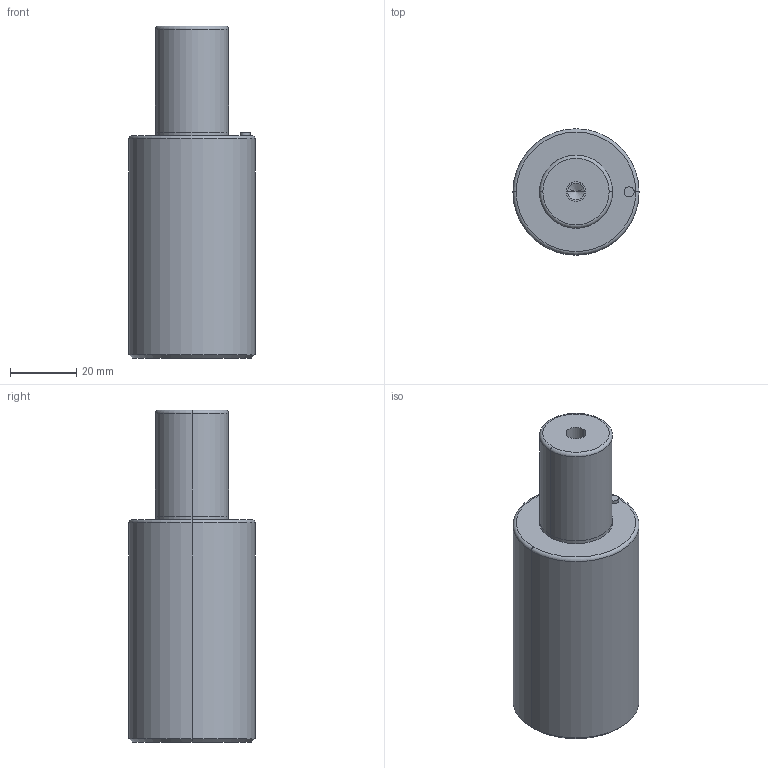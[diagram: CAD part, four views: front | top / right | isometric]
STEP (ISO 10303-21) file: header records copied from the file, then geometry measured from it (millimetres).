
FILE_DESCRIPTION(/* description */ (''),/* implementation_level */ '2;1');
FILE_NAME(/* name */ '3d_gsc38-32_03829_r00.stp',/* time_stamp */ '2011-01-10T14:15:22+09:00',/* author */ ('MISUMI'),/* organization */ (''),/* preprocessor_version */ 'ST-DEVELOPER v11',/* originating_system */ 'UGS - NX 5.0',/* authorisation */ '');
FILE_SCHEMA (('CONFIG_CONTROL_DESIGN'));
Length unit declared in the file: millimetre
Products named in the file (1): 3d_gsc38-32_03829_r00
Bounding box: 38 x 38 x 100 mm (x, y, z)
Volume: 87371.9 mm3; surface area: 12997.5 mm2
Topology: 1 solids, 1 shells, 32 faces, 66 edges, 38 vertices
Faces by surface type: cylinder 16, cone 6, plane 6, torus 4
Entity records: 912 total; most frequent: DIRECTION 168, CARTESIAN_POINT 133, ORIENTED_EDGE 124, AXIS2_PLACEMENT_3D 73, EDGE_CURVE 62, CIRCLE 40, EDGE_LOOP 38, VERTEX_POINT 38
